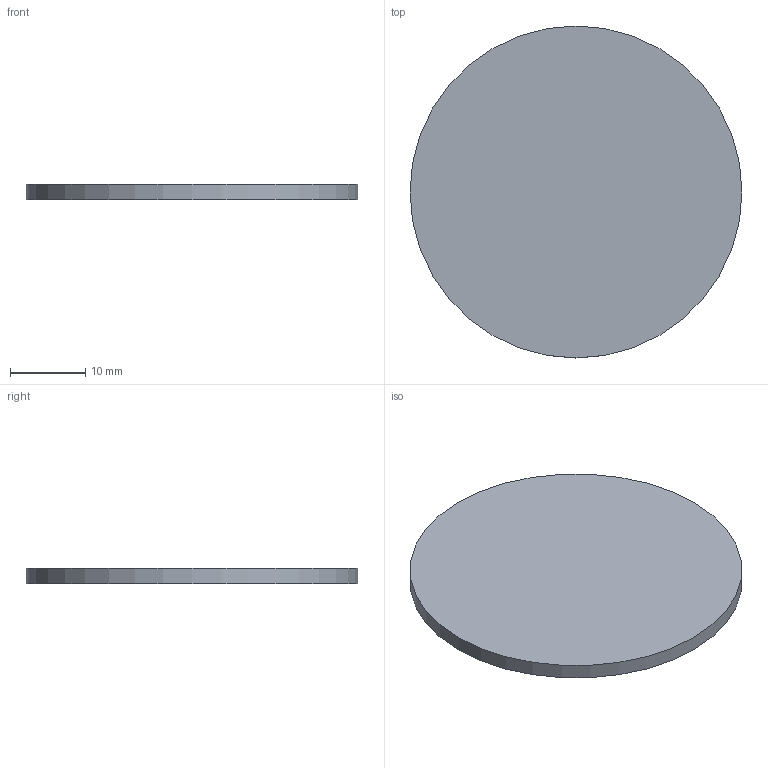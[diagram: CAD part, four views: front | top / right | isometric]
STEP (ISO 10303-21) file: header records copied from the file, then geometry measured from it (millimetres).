
FILE_DESCRIPTION(/* description */ (''),/* implementation_level */ '2;1');
FILE_NAME(/* name */ '4004587.stp',/* time_stamp */ '2016-09-26T09:40:00+02:00',/* author */ (''),/* organization */ (''),/* preprocessor_version */ 'ST-DEVELOPER v16',/* originating_system */ 'SIEMENS PLM Software NX 11.0',/* authorisation */ '');
FILE_SCHEMA (('AUTOMOTIVE_DESIGN { 1 0 10303 214 3 1 1 1 }'));
Length unit declared in the file: millimetre
Products named in the file (1): 4004587_LINKEDEXT_jt
Bounding box: 44 x 44 x 2 mm (x, y, z)
Surface area: 3317.5 mm2 (no closed solid volume)
Topology: 0 solids, 1 shells, 3 faces, 3 edges, 2 vertices
Faces by surface type: plane 2, cylinder 1
Full cylindrical faces by diameter (mm): 44 x1
Entity records: 86 total; most frequent: DIRECTION 12, CARTESIAN_POINT 8, AXIS2_PLACEMENT_3D 6, EDGE_LOOP 4, ORIENTED_EDGE 4, ADVANCED_FACE 3, PROPERTY_DEFINITION_REPRESENTATION 2, REPRESENTATION 2
